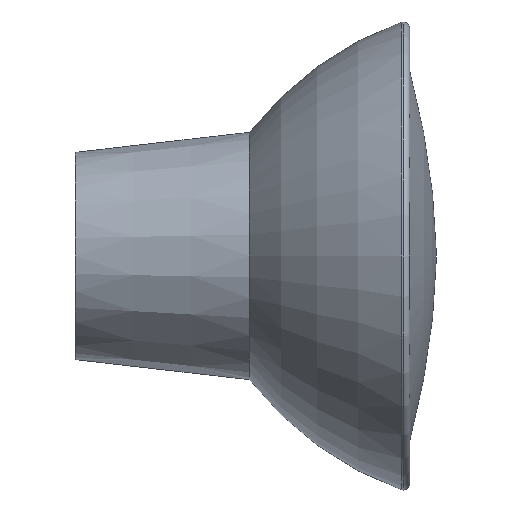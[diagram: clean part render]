
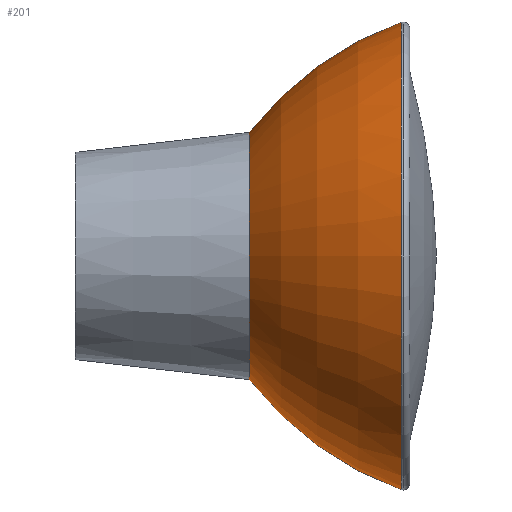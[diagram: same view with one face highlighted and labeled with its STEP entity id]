
A CAD part, left-side view. The second image highlights one B-rep face of the part: STEP entity #201.
In plain terms, the highlighted toroidal (fillet/blend) face has major radius 6.231 mm and minor radius 25.194 mm.
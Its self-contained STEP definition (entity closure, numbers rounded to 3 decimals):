
#115 = VERTEX_POINT( '', #255 );
#131 = EDGE_CURVE( '', #115, #137, #276, .T. );
#137 = VERTEX_POINT( '', #282 );
#169 = EDGE_CURVE( '', #203, #199, #316, .T. );
#173 = EDGE_CURVE( '', #203, #137, #322, .T. );
#189 = EDGE_CURVE( '', #199, #115, #341, .T. );
#199 = VERTEX_POINT( '', #352 );
#201 = ADVANCED_FACE( '', ( #354 ), #355, .T. );
#203 = VERTEX_POINT( '', #357 );
#255 = CARTESIAN_POINT( '', ( 0., -13., -9.25 ) );
#276 = CIRCLE( '', #436, 25.194 );
#282 = CARTESIAN_POINT( '', ( 0., -24.357, -17.479 ) );
#316 = CIRCLE( '', #486, 25.194 );
#322 = CIRCLE( '', #493, 17.479 );
#341 = CIRCLE( '', #514, 9.25 );
#352 = CARTESIAN_POINT( '', ( 0., -13., 9.25 ) );
#354 = FACE_OUTER_BOUND( '', #530, .T. );
#355 = TOROIDAL_SURFACE( '', #531, -6.231, 25.194 );
#357 = CARTESIAN_POINT( '', ( 0., -24.357, 17.479 ) );
#436 = AXIS2_PLACEMENT_3D( '', #610, #611, #612 );
#486 = AXIS2_PLACEMENT_3D( '', #655, #656, #657 );
#493 = AXIS2_PLACEMENT_3D( '', #666, #667, #668 );
#514 = AXIS2_PLACEMENT_3D( '', #696, #697, #698 );
#530 = EDGE_LOOP( '', ( #717, #718, #719, #720 ) );
#531 = AXIS2_PLACEMENT_3D( '', #721, #722, #723 );
#610 = CARTESIAN_POINT( '', ( 0., -32.877, 6.231 ) );
#611 = DIRECTION( '', ( -1., 0., 0. ) );
#612 = DIRECTION( '', ( 0., 0., -1. ) );
#655 = CARTESIAN_POINT( '', ( 0., -32.877, -6.231 ) );
#656 = DIRECTION( '', ( -1., 0., 0. ) );
#657 = DIRECTION( '', ( 0., 0., 1. ) );
#666 = CARTESIAN_POINT( '', ( 0., -24.357, 0. ) );
#667 = DIRECTION( '', ( 0., -1., 0. ) );
#668 = DIRECTION( '', ( 0., 0., 1. ) );
#696 = CARTESIAN_POINT( '', ( 0., -13., 0. ) );
#697 = DIRECTION( '', ( 0., -1., 0. ) );
#698 = DIRECTION( '', ( 0., 0., 1. ) );
#717 = ORIENTED_EDGE( '', *, *, #131, .T. );
#718 = ORIENTED_EDGE( '', *, *, #173, .F. );
#719 = ORIENTED_EDGE( '', *, *, #169, .T. );
#720 = ORIENTED_EDGE( '', *, *, #189, .T. );
#721 = CARTESIAN_POINT( '', ( 0., -32.877, 0. ) );
#722 = DIRECTION( '', ( 0., -1., 0. ) );
#723 = DIRECTION( '', ( 0., 0., -1. ) );
